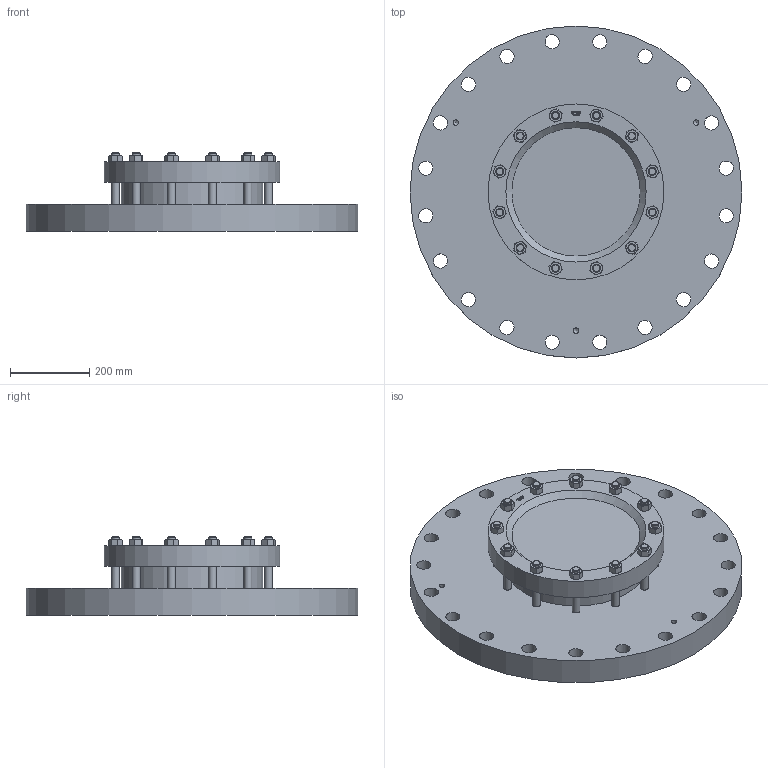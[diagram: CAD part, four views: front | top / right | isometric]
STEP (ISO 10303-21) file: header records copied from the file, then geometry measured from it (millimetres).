
FILE_DESCRIPTION(/* description */ (''),/* implementation_level */ '2;1');
FILE_NAME(/* name */ 'W:\Konstruktion_ACI\325\_STEP\325-600-16.stp',/* time_stamp */ '2022-03-02T17:23:29+01:00',/* author */ ('koslowksi'),/* organization */ (''),/* preprocessor_version */ 'ST-DEVELOPER v16.1',/* originating_system */ 'Autodesk Inventor 2016',/* authorisation */ '');
FILE_SCHEMA (('AUTOMOTIVE_DESIGN { 1 0 10303 214 3 1 1 }'));
Length unit declared in the file: millimetre
Products named in the file (1): 325-600-16
Bounding box: 840 x 840 x 198 mm (x, y, z)
Volume: 48905240.9 mm3; surface area: 1715724.3 mm2
Topology: 1 solids, 1 shells, 549 faces, 1376 edges, 875 vertices
Faces by surface type: plane 231, cone 160, bspline 108, cylinder 50
Full cylindrical faces by diameter (mm): 13.835 x3, 20 x24, 36 x20, 359 x1, 445 x1, 840 x1
Entity records: 16554 total; most frequent: CARTESIAN_POINT 4645, ORIENTED_EDGE 2550, DIRECTION 1913, EDGE_CURVE 1275, VERTEX_POINT 840, EDGE_LOOP 725, AXIS2_PLACEMENT_3D 700, STYLED_ITEM 549
